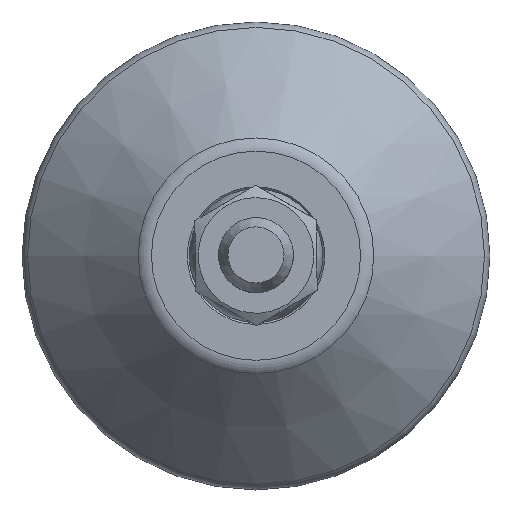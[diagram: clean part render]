
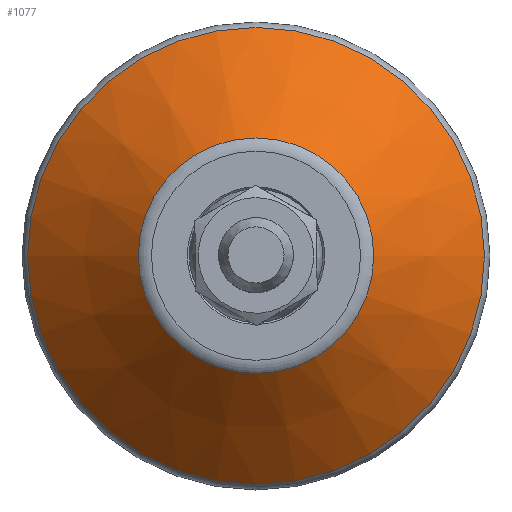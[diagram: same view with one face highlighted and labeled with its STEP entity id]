
A CAD part, top view. The second image highlights one B-rep face of the part: STEP entity #1077.
In plain terms, the highlighted conical face has half-angle 45 degrees and reference radius 18.5 mm.
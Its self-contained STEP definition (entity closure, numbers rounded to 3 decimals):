
#1077=ADVANCED_FACE('',(#2553,#2555),#2557,.T.);
#2553=FACE_BOUND('',#2554,.T.);
#2554=EDGE_LOOP('',(#3712,#3713));
#2555=FACE_BOUND('',#2556,.T.);
#2556=EDGE_LOOP('',(#3714,#3715));
#2557=CONICAL_SURFACE('',#2558,18.5,0.785);
#2558=AXIS2_PLACEMENT_3D('',#2559,#2560,#2561);
#2559=CARTESIAN_POINT('',(0.,0.,11.5));
#2560=DIRECTION('',(0.,0.,-1.));
#2561=DIRECTION('',(1.,0.,0.));
#3712=ORIENTED_EDGE('',*,*,#4449,.T.);
#3713=ORIENTED_EDGE('',*,*,#4448,.T.);
#3714=ORIENTED_EDGE('',*,*,#4452,.F.);
#3715=ORIENTED_EDGE('',*,*,#4453,.F.);
#4448=EDGE_CURVE('',#5168,#5169,#5170,.T.);
#4449=EDGE_CURVE('',#5169,#5168,#5171,.T.);
#4452=EDGE_CURVE('',#5176,#5177,#5178,.T.);
#4453=EDGE_CURVE('',#5177,#5176,#5179,.T.);
#5168=VERTEX_POINT('',#7831);
#5169=VERTEX_POINT('',#7832);
#5170=CIRCLE('',#7833,24.414);
#5171=CIRCLE('',#7837,24.414);
#5176=VERTEX_POINT('',#7851);
#5177=VERTEX_POINT('',#7852);
#5178=CIRCLE('',#7853,12.586);
#5179=CIRCLE('',#7857,12.586);
#7831=CARTESIAN_POINT('',(-24.414,0.,5.586));
#7832=CARTESIAN_POINT('',(24.414,0.,5.586));
#7833=AXIS2_PLACEMENT_3D('',#7834,#7835,#7836);
#7834=CARTESIAN_POINT('',(0.,0.,5.586));
#7835=DIRECTION('',(0.,0.,1.));
#7836=DIRECTION('',(-1.,0.,0.));
#7837=AXIS2_PLACEMENT_3D('',#7838,#7839,#7840);
#7838=CARTESIAN_POINT('',(0.,0.,5.586));
#7839=DIRECTION('',(0.,0.,1.));
#7840=DIRECTION('',(1.,0.,0.));
#7851=CARTESIAN_POINT('',(-12.586,0.,17.414));
#7852=CARTESIAN_POINT('',(12.586,0.,17.414));
#7853=AXIS2_PLACEMENT_3D('',#7854,#7855,#7856);
#7854=CARTESIAN_POINT('',(0.,0.,17.414));
#7855=DIRECTION('',(0.,0.,1.));
#7856=DIRECTION('',(-1.,0.,0.));
#7857=AXIS2_PLACEMENT_3D('',#7858,#7859,#7860);
#7858=CARTESIAN_POINT('',(0.,0.,17.414));
#7859=DIRECTION('',(0.,0.,1.));
#7860=DIRECTION('',(1.,0.,0.));
